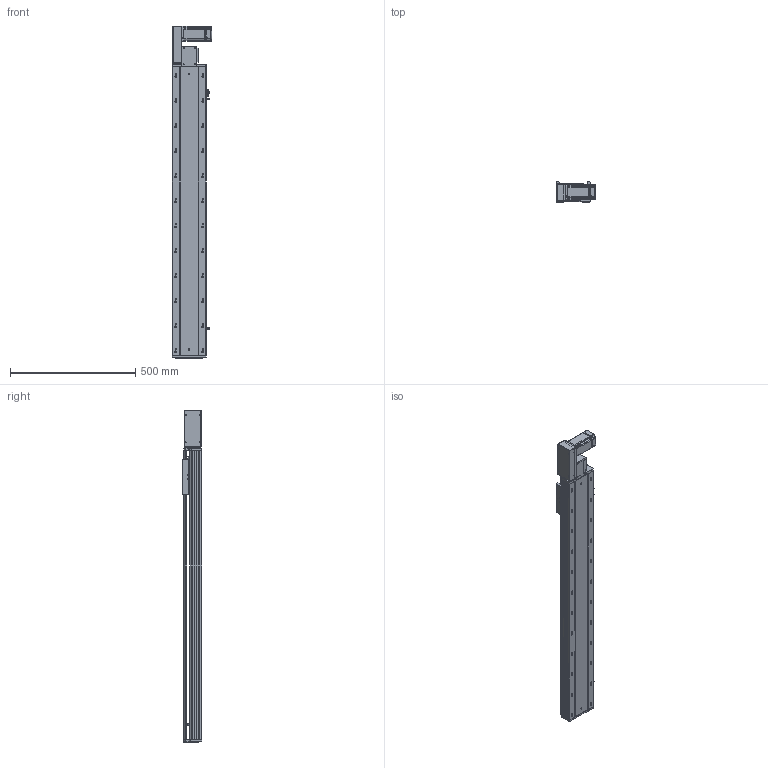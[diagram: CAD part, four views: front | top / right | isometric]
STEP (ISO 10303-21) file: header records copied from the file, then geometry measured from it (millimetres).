
FILE_DESCRIPTION (( 'STEP AP203' ), '1' );
FILE_NAME ('RY140-T-300-LK.SLDASM_900.step', '2021-03-01T06:35:25', ( '盈信电脑' ), ( '东莞市道滘镇水果街19号' ), 'SwSTEP 2.0', 'SolidWorks 2012', '' );
FILE_SCHEMA (( 'CONFIG_CONTROL_DESIGN' ));
Length unit declared in the file: millimetre
Products named in the file (18): RY140-T翋肮謫裔啣; 滅袉蝶18-10; RY140-T-300-LK.SLDASM_900; RY120-T主同步轮轴承压盖; RY140-T萇儂欶; 侂狟400W侜督萇儂; RY120-T蹟翐M4; RY140-T翋肮祭謫盓傅釱; RY140-T萇儂假蚾啣; 15; RY120-T肮祭湍揤踡輸1; RY140綴裔啣; RY120-T肮祭湍揤踡輸2; RY120外置感应片(140共用）; 覜茼ん672; RY140-T-300-DL倰第菁釱_900; RY140肮祭謫臏賑輸; RY140-T-300-DL倰第奻裔啣_900
Assembly tree (23 placements, depth 3):
  RY140-T-300-LK.SLDASM_900
    RY140-T-300-DL倰第菁釱_900
    RY140肮祭謫臏賑輸
    RY140-T-300-DL倰第奻裔啣_900
    RY140綴裔啣
    覜茼ん672  x3
    RY120外置感应片(140共用）
    RY120-T肮祭湍揤踡輸2
    RY120-T肮祭湍揤踡輸1
    RY140-T翋肮祭謫盓傅釱
    RY140-T萇儂假蚾啣
    侂狟400W侜督萇儂
      15
    RY120-T主同步轮轴承压盖
    RY120-T蹟翐M4  x4
    RY140-T萇儂欶
    滅袉蝶18-10  x2
    RY140-T翋肮謫裔啣
Bounding box: 157 x 78 x 1326.5 mm (x, y, z)
Volume: 3749758.1 mm3; surface area: 1427788.4 mm2
Topology: 22 solids, 22 shells, 2739 faces, 7569 edges, 4866 vertices
Faces by surface type: plane 1385, cylinder 1040, cone 214, bspline 100
Entity records: 87581 total; most frequent: CARTESIAN_POINT 21585, ORIENTED_EDGE 13634, DIRECTION 12857, EDGE_CURVE 6817, VERTEX_POINT 4465, LINE 4289, VECTOR 4289, AXIS2_PLACEMENT_3D 4284
